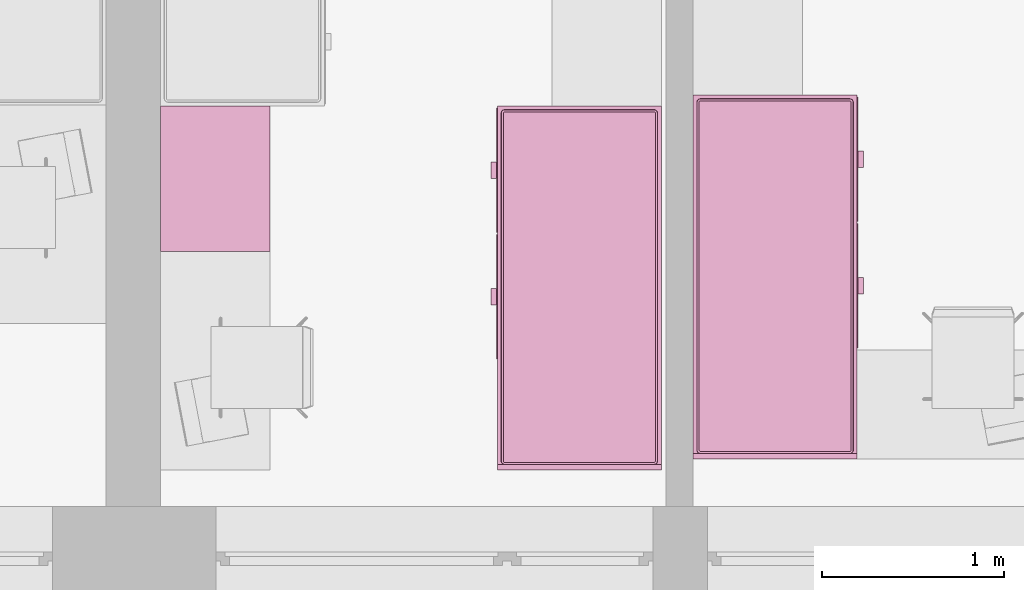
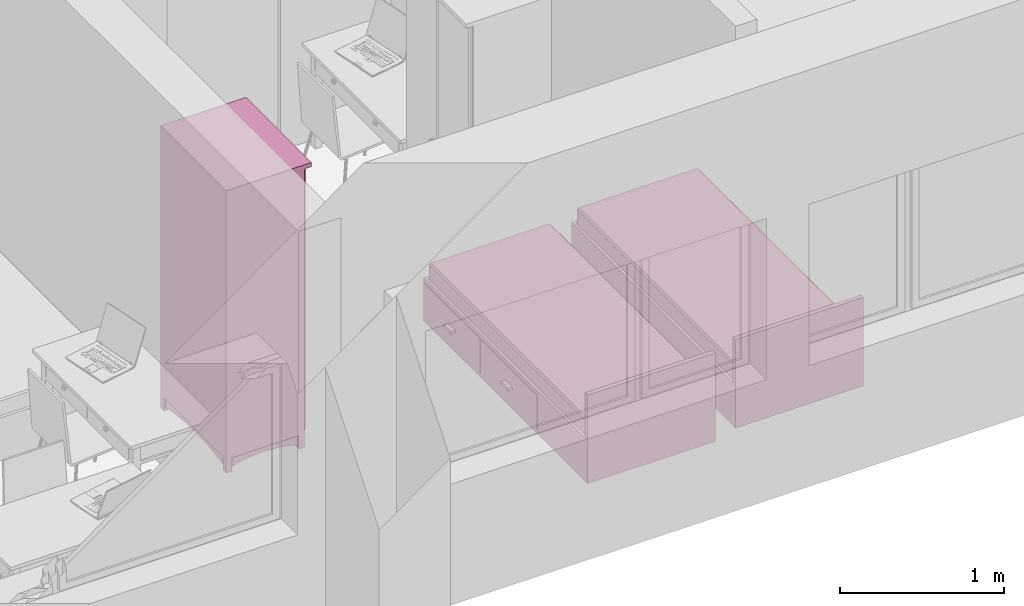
# One storey, part 103 of 172: 3 furnishings.
"""IFC2X3 building model written with IfcOpenShell, lengths in millimetres."""

from ifc_helpers import new_model, entity, si_unit, converted_unit, money_unit, direction, frame, origin_with_axes, place, context, subcontext, project, spatial, faceted_brep, source, transform, mapped, material, material_list, type_object, element, save


model = new_model("IFC2X3")

# Units and contexts
model_context = context("Model", 3, precision=1e-05, world=origin_with_axes(), true_north=direction((0.0, 1.0)))
body_context = subcontext(model_context, "Body", "Model", "MODEL_VIEW")
ifc_project = project(units=[si_unit("LENGTHUNIT", "METRE", prefix="MILLI"), si_unit("AREAUNIT", "SQUARE_METRE"), si_unit("VOLUMEUNIT", "CUBIC_METRE"), converted_unit("PLANEANGLEUNIT", "DEGREE", entity("IfcPlaneAngleMeasure", 0.0174532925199), si_unit("PLANEANGLEUNIT", "RADIAN"), dimensions=[0, 0, 0, 0, 0, 0, 0]), si_unit("SOLIDANGLEUNIT", "STERADIAN"), money_unit("USD"), converted_unit("TIMEUNIT", "Year", entity("IfcTimeMeasure", 31556926.0), si_unit("TIMEUNIT", "SECOND"), dimensions=[0, 0, 0, 0, 0, 0, 0]), si_unit("MASSUNIT", "GRAM"), si_unit("THERMODYNAMICTEMPERATUREUNIT", "DEGREE_CELSIUS"), si_unit("LUMINOUSINTENSITYUNIT", "LUMEN")], contexts=[model_context])

# Site, building, storey
site_placement = place(None, origin_with_axes())
site = spatial("IfcSite", under=ifc_project, at=site_placement, Name="Site", CompositionType="ELEMENT")
building_placement = place(site_placement, origin_with_axes())
building = spatial("IfcBuilding", under=site, at=building_placement, Name="Building", CompositionType="ELEMENT")
storey_placement = place(building_placement, frame((0.0, 0.0, 3200.0), z_axis=(0.0, 0.0, 1.0), x_axis=(1.0, 0.0, 0.0)))
storey = spatial("IfcBuildingStorey", under=building, at=storey_placement, Name="3KORRUS", CompositionType="ELEMENT", Elevation=3200.0)

# Furnishings
ifc_material = material(Name="Background")
ifc_material_list = material_list([ifc_material])
furnishing_element_type_1 = type_object("IfcFurnishingElementType", Name="Bed 19")
shared_shape_1 = source(origin_with_axes(), body_context, "Body", "Brep", [
    faceted_brep([(900.0, 1970.0, 0.0), (0.0, 1970.0, 0.0), (0.0, 2000.0, 0.0), (900.0, 2000.0, 0.0), (900.0, 1970.0, 660.0), (0.0, 1970.0, 660.0), (0.0, 2000.0, 660.0), (900.0, 2000.0, 660.0)], [[[0, 1, 2, 3]], [[1, 0, 4, 5]], [[2, 1, 5, 6]], [[3, 2, 6, 7]], [[0, 3, 7, 4]], [[5, 4, 7, 6]]]),
    faceted_brep([(900.0, 0.0, 0.0), (0.0, 0.0, 0.0), (0.0, 1970.0, 0.0), (900.0, 1970.0, 0.0), (900.0, 0.0, 320.0), (0.0, 0.0, 320.0), (0.0, 1970.0, 320.0), (900.0, 1970.0, 320.0)], [[[0, 1, 2, 3]], [[1, 0, 4, 5]], [[2, 1, 5, 6]], [[3, 2, 6, 7]], [[0, 3, 7, 4]], [[5, 4, 7, 6]]]),
    faceted_brep([(905.0, 10.0, 30.0), (900.0, 10.0, 30.0), (900.0, 695.0, 30.0), (905.0, 695.0, 30.0), (905.0, 10.0, 290.0), (900.0, 10.0, 290.0), (900.0, 695.0, 290.0), (905.0, 695.0, 290.0)], [[[0, 1, 2, 3]], [[1, 0, 4, 5]], [[2, 1, 5, 6]], [[3, 2, 6, 7]], [[0, 3, 7, 4]], [[5, 4, 7, 6]]]),
    faceted_brep([(935.0, 307.5, 150.0), (905.0, 307.5, 150.0), (905.0, 397.5, 150.0), (935.0, 397.5, 150.0), (935.0, 307.5, 170.0), (905.0, 307.5, 170.0), (905.0, 397.5, 170.0), (935.0, 397.5, 170.0)], [[[0, 1, 2, 3]], [[1, 0, 4, 5]], [[2, 1, 5, 6]], [[3, 2, 6, 7]], [[0, 3, 7, 4]], [[5, 4, 7, 6]]]),
    faceted_brep([(905.0, 705.0, 30.0), (900.0, 705.0, 30.0), (900.0, 1390.0, 30.0), (905.0, 1390.0, 30.0), (905.0, 705.0, 290.0), (900.0, 705.0, 290.0), (900.0, 1390.0, 290.0), (905.0, 1390.0, 290.0)], [[[0, 1, 2, 3]], [[1, 0, 4, 5]], [[2, 1, 5, 6]], [[3, 2, 6, 7]], [[0, 3, 7, 4]], [[5, 4, 7, 6]]]),
    faceted_brep([(935.0, 1002.5, 150.0), (905.0, 1002.5, 150.0), (905.0, 1092.5, 150.0), (935.0, 1092.5, 150.0), (935.0, 1002.5, 170.0), (905.0, 1002.5, 170.0), (905.0, 1092.5, 170.0), (935.0, 1092.5, 170.0)], [[[0, 1, 2, 3]], [[1, 0, 4, 5]], [[2, 1, 5, 6]], [[3, 2, 6, 7]], [[0, 3, 7, 4]], [[5, 4, 7, 6]]]),
    faceted_brep([(20.0, 40.0, 350.0), (20.0, 1950.0, 350.0), (21.522, 1957.654, 350.0), (25.858, 1964.142, 350.0), (32.346, 1968.478, 350.0), (40.0, 1970.0, 350.0), (860.0, 1970.0, 350.0), (867.654, 1968.478, 350.0), (874.142, 1964.142, 350.0), (878.478, 1957.654, 350.0), (880.0, 1950.0, 350.0), (880.0, 40.0, 350.0), (878.478, 32.346, 350.0), (874.142, 25.858, 350.0), (867.654, 21.522, 350.0), (860.0, 20.0, 350.0), (40.0, 20.0, 350.0), (32.346, 21.522, 350.0), (25.858, 25.858, 350.0), (21.522, 32.346, 350.0), (20.0, 40.0, 420.0), (20.0, 1950.0, 420.0), (21.522, 1957.654, 420.0), (25.858, 1964.142, 420.0), (32.346, 1968.478, 420.0), (40.0, 1970.0, 420.0), (860.0, 1970.0, 420.0), (867.654, 1968.478, 420.0), (874.142, 1964.142, 420.0), (878.478, 1957.654, 420.0), (880.0, 1950.0, 420.0), (880.0, 40.0, 420.0), (878.478, 32.346, 420.0), (874.142, 25.858, 420.0), (867.654, 21.522, 420.0), (860.0, 20.0, 420.0), (40.0, 20.0, 420.0), (32.346, 21.522, 420.0), (25.858, 25.858, 420.0), (21.522, 32.346, 420.0), (21.522, 40.15, 427.654), (21.522, 1949.85, 427.654), (22.956, 1957.06, 427.654), (26.955, 1963.045, 427.654), (32.94, 1967.044, 427.654), (40.15, 1968.478, 427.654), (859.85, 1968.478, 427.654), (867.06, 1967.044, 427.654), (873.045, 1963.045, 427.654), (877.044, 1957.06, 427.654), (878.478, 1949.85, 427.654), (878.478, 40.15, 427.654), (877.044, 32.94, 427.654), (873.045, 26.955, 427.654), (867.06, 22.956, 427.654), (859.85, 21.522, 427.654), (40.15, 21.522, 427.654), (32.94, 22.956, 427.654), (26.955, 26.955, 427.654), (22.956, 32.94, 427.654), (32.346, 41.216, 438.478), (32.346, 1948.784, 438.478), (33.152, 1952.836, 438.478), (34.759, 1955.241, 438.478), (37.164, 1956.848, 438.478), (41.216, 1957.654, 438.478), (858.784, 1957.654, 438.478), (862.836, 1956.848, 438.478), (865.241, 1955.241, 438.478), (866.848, 1952.836, 438.478), (867.654, 1948.784, 438.478), (867.654, 41.216, 438.478), (866.848, 37.164, 438.478), (865.241, 34.759, 438.478), (862.836, 33.152, 438.478), (858.784, 32.346, 438.478), (41.216, 32.346, 438.478), (37.164, 33.152, 438.478), (34.759, 34.759, 438.478), (33.152, 37.164, 438.478), (40.0, 41.97, 440.0), (40.0, 1948.03, 440.0), (40.327, 1949.673, 440.0), (40.0, 1950.0, 439.924), (41.97, 1950.0, 440.0), (858.03, 1950.0, 440.0), (859.673, 1949.673, 440.0), (860.0, 1950.0, 439.924), (860.0, 1948.03, 440.0), (860.0, 41.97, 440.0), (859.673, 40.327, 440.0), (860.0, 40.0, 439.924), (858.03, 40.0, 440.0), (41.97, 40.0, 440.0), (40.327, 40.327, 440.0), (40.0, 40.0, 439.924)], [[[0, 1, 2, 3, 4, 5, 6, 7, 8, 9, 10, 11, 12, 13, 14, 15, 16, 17, 18, 19]], [[1, 0, 20, 21]], [[2, 1, 21, 22]], [[3, 2, 22, 23]], [[4, 3, 23, 24]], [[5, 4, 24, 25]], [[6, 5, 25, 26]], [[7, 6, 26, 27]], [[8, 7, 27, 28]], [[9, 8, 28, 29]], [[10, 9, 29, 30]], [[11, 10, 30, 31]], [[12, 11, 31, 32]], [[13, 12, 32, 33]], [[14, 13, 33, 34]], [[15, 14, 34, 35]], [[16, 15, 35, 36]], [[17, 16, 36, 37]], [[18, 17, 37, 38]], [[19, 18, 38, 39]], [[0, 19, 39, 20]], [[21, 20, 40, 41]], [[22, 21, 41, 42]], [[23, 22, 42, 43]], [[24, 23, 43, 44]], [[25, 24, 44, 45]], [[26, 25, 45, 46]], [[27, 26, 46, 47]], [[28, 27, 47, 48]], [[29, 28, 48, 49]], [[30, 29, 49, 50]], [[31, 30, 50, 51]], [[32, 31, 51, 52]], [[33, 32, 52, 53]], [[34, 33, 53, 54]], [[35, 34, 54, 55]], [[36, 35, 55, 56]], [[37, 36, 56, 57]], [[38, 37, 57, 58]], [[39, 38, 58, 59]], [[20, 39, 59, 40]], [[41, 40, 60, 61]], [[42, 41, 61, 62]], [[43, 42, 62, 63]], [[44, 43, 63, 64]], [[45, 44, 64, 65]], [[46, 45, 65, 66]], [[47, 46, 66, 67]], [[48, 47, 67, 68]], [[49, 48, 68, 69]], [[50, 49, 69, 70]], [[51, 50, 70, 71]], [[52, 51, 71, 72]], [[53, 52, 72, 73]], [[54, 53, 73, 74]], [[55, 54, 74, 75]], [[56, 55, 75, 76]], [[57, 56, 76, 77]], [[58, 57, 77, 78]], [[59, 58, 78, 79]], [[40, 59, 79, 60]], [[61, 60, 80, 81]], [[62, 61, 81, 82, 83]], [[63, 62, 83]], [[64, 63, 83]], [[65, 64, 83, 82, 84]], [[66, 65, 84, 85]], [[67, 66, 85, 86, 87]], [[68, 67, 87]], [[69, 68, 87]], [[70, 69, 87, 86, 88]], [[71, 70, 88, 89]], [[72, 71, 89, 90, 91]], [[73, 72, 91]], [[74, 73, 91]], [[75, 74, 91, 90, 92]], [[76, 75, 92, 93]], [[77, 76, 93, 94, 95]], [[78, 77, 95]], [[79, 78, 95]], [[60, 79, 95, 94, 80]], [[81, 80, 94, 93, 92, 90, 89, 88, 86, 85, 84, 82]]]),
    faceted_brep([(20.0, 40.0, 350.0), (21.522, 32.346, 350.0), (25.858, 25.858, 350.0), (32.346, 21.522, 350.0), (40.0, 20.0, 350.0), (860.0, 20.0, 350.0), (867.654, 21.522, 350.0), (874.142, 25.858, 350.0), (878.478, 32.346, 350.0), (880.0, 40.0, 350.0), (880.0, 1950.0, 350.0), (878.478, 1957.654, 350.0), (874.142, 1964.142, 350.0), (867.654, 1968.478, 350.0), (860.0, 1970.0, 350.0), (40.0, 1970.0, 350.0), (32.346, 1968.478, 350.0), (25.858, 1964.142, 350.0), (21.522, 1957.654, 350.0), (20.0, 1950.0, 350.0), (20.0, 40.0, 320.0), (21.522, 32.346, 320.0), (25.858, 25.858, 320.0), (32.346, 21.522, 320.0), (40.0, 20.0, 320.0), (860.0, 20.0, 320.0), (867.654, 21.522, 320.0), (874.142, 25.858, 320.0), (878.478, 32.346, 320.0), (880.0, 40.0, 320.0), (880.0, 1950.0, 320.0), (878.478, 1957.654, 320.0), (874.142, 1964.142, 320.0), (867.654, 1968.478, 320.0), (860.0, 1970.0, 320.0), (40.0, 1970.0, 320.0), (32.346, 1968.478, 320.0), (25.858, 1964.142, 320.0), (21.522, 1957.654, 320.0), (20.0, 1950.0, 320.0)], [[[0, 1, 2, 3, 4, 5, 6, 7, 8, 9, 10, 11, 12, 13, 14, 15, 16, 17, 18, 19]], [[0, 20, 21, 1]], [[1, 21, 22, 2]], [[2, 22, 23, 3]], [[3, 23, 24, 4]], [[4, 24, 25, 5]], [[5, 25, 26, 6]], [[6, 26, 27, 7]], [[7, 27, 28, 8]], [[8, 28, 29, 9]], [[9, 29, 30, 10]], [[10, 30, 31, 11]], [[11, 31, 32, 12]], [[12, 32, 33, 13]], [[13, 33, 34, 14]], [[14, 34, 35, 15]], [[15, 35, 36, 16]], [[16, 36, 37, 17]], [[17, 37, 38, 18]], [[18, 38, 39, 19]], [[19, 39, 20, 0]], [[20, 39, 38, 37, 36, 35, 34, 33, 32, 31, 30, 29, 28, 27, 26, 25, 24, 23, 22, 21]]]),
])
furnishing_1_placement = place(storey_placement, frame((-27240.2967033, -17439.2398994, 0.0), z_axis=(0.0, 0.0, 1.0), x_axis=(-1.0, 0.0, 0.0)))
element("IfcFurnishingElement", 1, at=furnishing_1_placement, inside=storey, type_object=furnishing_element_type_1, material=ifc_material_list, Name="FU - 013", context=body_context, shape_type="MappedRepresentation", body=[
    mapped(shared_shape_1, transform((0.0, 0.0, 0.0))),
])
furnishing_element_type_2 = type_object("IfcFurnishingElementType", Name="Cupboard 19")
shared_shape_2 = source(origin_with_axes(), body_context, "Body", "Brep", [
    faceted_brep([(780.0, 600.0, 120.0), (780.0, 600.0, 2050.0), (780.0, 580.0, 2050.0), (780.0, 580.0, 120.0), (20.0, 600.0, 120.0), (20.0, 600.0, 2050.0), (20.0, 580.0, 2050.0), (20.0, 580.0, 120.0)], [[[0, 1, 2, 3]], [[4, 5, 1, 0]], [[1, 5, 6, 2]], [[3, 2, 6, 7]], [[0, 3, 7, 4]], [[7, 6, 5, 4]]]),
    faceted_brep([(0.0, 50.0, 100.0), (0.0, 600.0, 100.0), (20.0, 600.0, 100.0), (20.0, 50.0, 100.0), (0.0, 50.0, 2070.0), (0.0, 600.0, 2070.0), (20.0, 600.0, 2070.0), (20.0, 50.0, 2070.0)], [[[0, 1, 2, 3]], [[0, 4, 5, 1]], [[1, 5, 6, 2]], [[2, 6, 7, 3]], [[3, 7, 4, 0]], [[7, 6, 5, 4]]]),
    faceted_brep([(780.0, 50.0, 100.0), (780.0, 600.0, 100.0), (800.0, 600.0, 100.0), (800.0, 50.0, 100.0), (780.0, 50.0, 2070.0), (780.0, 600.0, 2070.0), (800.0, 600.0, 2070.0), (800.0, 50.0, 2070.0)], [[[0, 1, 2, 3]], [[0, 4, 5, 1]], [[1, 5, 6, 2]], [[2, 6, 7, 3]], [[3, 7, 4, 0]], [[7, 6, 5, 4]]]),
    faceted_brep([(20.0, 50.0, 100.0), (20.0, 600.0, 100.0), (780.0, 600.0, 100.0), (780.0, 50.0, 100.0), (20.0, 50.0, 120.0), (20.0, 600.0, 120.0), (780.0, 600.0, 120.0), (780.0, 50.0, 120.0)], [[[0, 1, 2, 3]], [[0, 4, 5, 1]], [[1, 5, 6, 2]], [[2, 6, 7, 3]], [[3, 7, 4, 0]], [[7, 6, 5, 4]]]),
    faceted_brep([(20.0, 50.0, 2050.0), (20.0, 600.0, 2050.0), (780.0, 600.0, 2050.0), (780.0, 50.0, 2050.0), (20.0, 50.0, 2070.0), (20.0, 600.0, 2070.0), (780.0, 600.0, 2070.0), (780.0, 50.0, 2070.0)], [[[0, 1, 2, 3]], [[0, 4, 5, 1]], [[1, 5, 6, 2]], [[2, 6, 7, 3]], [[3, 7, 4, 0]], [[7, 6, 5, 4]]]),
    faceted_brep([(0.0, 600.0, 2070.0), (0.0, 0.0, 2070.0), (0.0, 0.0, 2100.0), (0.0, 600.0, 2100.0), (800.0, 600.0, 2070.0), (800.0, 0.0, 2070.0), (800.0, 0.0, 2100.0), (800.0, 600.0, 2100.0)], [[[0, 1, 2, 3]], [[0, 4, 5, 1]], [[1, 5, 6, 2]], [[3, 2, 6, 7]], [[4, 0, 3, 7]], [[5, 4, 7, 6]]]),
    faceted_brep([(760.0, 590.0, 25.0), (760.0, 570.0, 25.0), (640.962, 570.0, 45.8), (640.962, 590.0, 45.8), (760.0, 590.0, 100.0), (760.0, 570.0, 100.0), (40.0, 570.0, 100.0), (40.0, 570.0, 25.0), (159.038, 570.0, 45.8), (279.23, 570.0, 58.32), (400.0, 570.0, 62.5), (520.77, 570.0, 58.32), (520.77, 590.0, 58.32), (400.0, 590.0, 62.5), (279.23, 590.0, 58.32), (159.038, 590.0, 45.8), (40.0, 590.0, 25.0), (40.0, 590.0, 100.0)], [[[0, 1, 2, 3]], [[4, 5, 1, 0]], [[1, 5, 6, 7, 8, 9, 10, 11, 2]], [[3, 2, 11, 12]], [[0, 3, 12, 13, 14, 15, 16, 17, 4]], [[17, 6, 5, 4]], [[16, 7, 6, 17]], [[15, 8, 7, 16]], [[14, 9, 8, 15]], [[13, 10, 9, 14]], [[12, 11, 10, 13]]]),
    faceted_brep([(760.0, 80.0, 25.0), (760.0, 60.0, 25.0), (640.962, 60.0, 45.8), (640.962, 80.0, 45.8), (760.0, 80.0, 100.0), (760.0, 60.0, 100.0), (40.0, 60.0, 100.0), (40.0, 60.0, 25.0), (159.038, 60.0, 45.8), (279.23, 60.0, 58.32), (400.0, 60.0, 62.5), (520.77, 60.0, 58.32), (520.77, 80.0, 58.32), (400.0, 80.0, 62.5), (279.23, 80.0, 58.32), (159.038, 80.0, 45.8), (40.0, 80.0, 25.0), (40.0, 80.0, 100.0)], [[[0, 1, 2, 3]], [[4, 5, 1, 0]], [[1, 5, 6, 7, 8, 9, 10, 11, 2]], [[3, 2, 11, 12]], [[0, 3, 12, 13, 14, 15, 16, 17, 4]], [[17, 6, 5, 4]], [[16, 7, 6, 17]], [[15, 8, 7, 16]], [[14, 9, 8, 15]], [[13, 10, 9, 14]], [[12, 11, 10, 13]]]),
    faceted_brep([(790.0, 90.0, 25.0), (770.0, 90.0, 25.0), (770.0, 141.266, 38.072), (790.0, 141.266, 38.072), (790.0, 90.0, 100.0), (770.0, 90.0, 100.0), (770.0, 560.0, 100.0), (770.0, 560.0, 25.0), (770.0, 508.734, 38.072), (770.0, 456.752, 47.92), (770.0, 404.257, 54.508), (770.0, 351.453, 57.808), (770.0, 298.547, 57.808), (770.0, 245.743, 54.508), (770.0, 193.248, 47.92), (790.0, 193.248, 47.92), (790.0, 245.743, 54.508), (790.0, 298.547, 57.808), (790.0, 351.453, 57.808), (790.0, 404.257, 54.508), (790.0, 456.752, 47.92), (790.0, 508.734, 38.072), (790.0, 560.0, 25.0), (790.0, 560.0, 100.0)], [[[0, 1, 2, 3]], [[4, 5, 1, 0]], [[1, 5, 6, 7, 8, 9, 10, 11, 12, 13, 14, 2]], [[3, 2, 14, 15]], [[0, 3, 15, 16, 17, 18, 19, 20, 21, 22, 23, 4]], [[23, 6, 5, 4]], [[22, 7, 6, 23]], [[21, 8, 7, 22]], [[20, 9, 8, 21]], [[19, 10, 9, 20]], [[18, 11, 10, 19]], [[17, 12, 11, 18]], [[16, 13, 12, 17]], [[15, 14, 13, 16]]]),
    faceted_brep([(30.0, 90.0, 25.0), (10.0, 90.0, 25.0), (10.0, 141.266, 38.072), (30.0, 141.266, 38.072), (30.0, 90.0, 100.0), (10.0, 90.0, 100.0), (10.0, 560.0, 100.0), (10.0, 560.0, 25.0), (10.0, 508.734, 38.072), (10.0, 456.752, 47.92), (10.0, 404.257, 54.508), (10.0, 351.453, 57.808), (10.0, 298.547, 57.808), (10.0, 245.743, 54.508), (10.0, 193.248, 47.92), (30.0, 193.248, 47.92), (30.0, 245.743, 54.508), (30.0, 298.547, 57.808), (30.0, 351.453, 57.808), (30.0, 404.257, 54.508), (30.0, 456.752, 47.92), (30.0, 508.734, 38.072), (30.0, 560.0, 25.0), (30.0, 560.0, 100.0)], [[[0, 1, 2, 3]], [[4, 5, 1, 0]], [[1, 5, 6, 7, 8, 9, 10, 11, 12, 13, 14, 2]], [[3, 2, 14, 15]], [[0, 3, 15, 16, 17, 18, 19, 20, 21, 22, 23, 4]], [[23, 6, 5, 4]], [[22, 7, 6, 23]], [[21, 8, 7, 22]], [[20, 9, 8, 21]], [[19, 10, 9, 20]], [[18, 11, 10, 19]], [[17, 12, 11, 18]], [[16, 13, 12, 17]], [[15, 14, 13, 16]]]),
    faceted_brep([(760.0, 560.0, 0.0), (760.0, 560.0, 100.0), (760.0, 600.0, 100.0), (760.0, 600.0, 0.0), (800.0, 560.0, 0.0), (800.0, 560.0, 100.0), (800.0, 600.0, 100.0), (800.0, 600.0, 0.0)], [[[0, 1, 2, 3]], [[4, 5, 1, 0]], [[1, 5, 6, 2]], [[3, 2, 6, 7]], [[0, 3, 7, 4]], [[7, 6, 5, 4]]]),
    faceted_brep([(0.0, 560.0, 0.0), (0.0, 560.0, 100.0), (0.0, 600.0, 100.0), (0.0, 600.0, 0.0), (40.0, 560.0, 0.0), (40.0, 560.0, 100.0), (40.0, 600.0, 100.0), (40.0, 600.0, 0.0)], [[[0, 1, 2, 3]], [[4, 5, 1, 0]], [[1, 5, 6, 2]], [[3, 2, 6, 7]], [[0, 3, 7, 4]], [[7, 6, 5, 4]]]),
    faceted_brep([(760.0, 50.0, 0.0), (760.0, 50.0, 100.0), (760.0, 90.0, 100.0), (760.0, 90.0, 0.0), (800.0, 50.0, 0.0), (800.0, 50.0, 100.0), (800.0, 90.0, 100.0), (800.0, 90.0, 0.0)], [[[0, 1, 2, 3]], [[4, 5, 1, 0]], [[1, 5, 6, 2]], [[3, 2, 6, 7]], [[0, 3, 7, 4]], [[7, 6, 5, 4]]]),
    faceted_brep([(0.0, 50.0, 0.0), (0.0, 50.0, 100.0), (0.0, 90.0, 100.0), (0.0, 90.0, 0.0), (40.0, 50.0, 0.0), (40.0, 50.0, 100.0), (40.0, 90.0, 100.0), (40.0, 90.0, 0.0)], [[[0, 1, 2, 3]], [[4, 5, 1, 0]], [[1, 5, 6, 2]], [[3, 2, 6, 7]], [[0, 3, 7, 4]], [[7, 6, 5, 4]]]),
    faceted_brep([(780.0, 580.0, 587.5), (780.0, 580.0, 607.5), (780.0, 50.0, 607.5), (780.0, 50.0, 587.5), (20.0, 580.0, 587.5), (20.0, 580.0, 607.5), (20.0, 50.0, 607.5), (20.0, 50.0, 587.5)], [[[0, 1, 2, 3]], [[4, 5, 1, 0]], [[1, 5, 6, 2]], [[3, 2, 6, 7]], [[0, 3, 7, 4]], [[7, 6, 5, 4]]]),
    faceted_brep([(780.0, 580.0, 1075.0), (780.0, 580.0, 1095.0), (780.0, 50.0, 1095.0), (780.0, 50.0, 1075.0), (20.0, 580.0, 1075.0), (20.0, 580.0, 1095.0), (20.0, 50.0, 1095.0), (20.0, 50.0, 1075.0)], [[[0, 1, 2, 3]], [[4, 5, 1, 0]], [[1, 5, 6, 2]], [[3, 2, 6, 7]], [[0, 3, 7, 4]], [[7, 6, 5, 4]]]),
    faceted_brep([(780.0, 580.0, 1562.5), (780.0, 580.0, 1582.5), (780.0, 50.0, 1582.5), (780.0, 50.0, 1562.5), (20.0, 580.0, 1562.5), (20.0, 580.0, 1582.5), (20.0, 50.0, 1582.5), (20.0, 50.0, 1562.5)], [[[0, 1, 2, 3]], [[4, 5, 1, 0]], [[1, 5, 6, 2]], [[3, 2, 6, 7]], [[0, 3, 7, 4]], [[7, 6, 5, 4]]]),
    faceted_brep([(789.5, 50.0, 110.5), (400.5, 50.0, 110.5), (400.5, 50.0, 2059.5), (789.5, 50.0, 2059.5), (789.5, 40.0, 110.5), (400.5, 40.0, 110.5), (400.5, 40.0, 2059.5), (789.5, 40.0, 2059.5), (779.5, 30.0, 120.5), (410.5, 30.0, 120.5), (410.5, 30.0, 2049.5), (779.5, 30.0, 2049.5)], [[[0, 1, 2, 3]], [[0, 4, 5, 1]], [[1, 5, 6, 2]], [[2, 6, 7, 3]], [[3, 7, 4, 0]], [[4, 8, 9, 5]], [[5, 9, 10, 6]], [[6, 10, 11, 7]], [[7, 11, 8, 4]], [[10, 9, 8, 11]]]),
    faceted_brep([(399.5, 50.0, 110.5), (10.5, 50.0, 110.5), (10.5, 50.0, 2059.5), (399.5, 50.0, 2059.5), (399.5, 40.0, 110.5), (10.5, 40.0, 110.5), (10.5, 40.0, 2059.5), (399.5, 40.0, 2059.5), (389.5, 30.0, 120.5), (20.5, 30.0, 120.5), (20.5, 30.0, 2049.5), (389.5, 30.0, 2049.5)], [[[0, 1, 2, 3]], [[0, 4, 5, 1]], [[1, 5, 6, 2]], [[2, 6, 7, 3]], [[3, 7, 4, 0]], [[4, 8, 9, 5]], [[5, 9, 10, 6]], [[6, 10, 11, 7]], [[7, 11, 8, 4]], [[10, 9, 8, 11]]]),
    faceted_brep([(339.608, 30.0, 954.0), (338.0, 30.0, 960.0), (339.608, 30.0, 966.0), (344.0, 30.0, 970.392), (350.0, 30.0, 972.0), (356.0, 30.0, 970.392), (360.392, 30.0, 966.0), (362.0, 30.0, 960.0), (360.392, 30.0, 954.0), (356.0, 30.0, 949.608), (350.0, 30.0, 948.0), (344.0, 30.0, 949.608), (339.608, 5.0, 954.0), (338.0, 5.0, 960.0), (339.608, 5.0, 966.0), (344.0, 5.0, 970.392), (350.0, 5.0, 972.0), (356.0, 5.0, 970.392), (360.392, 5.0, 966.0), (362.0, 5.0, 960.0), (360.392, 5.0, 954.0), (356.0, 5.0, 949.608), (350.0, 5.0, 948.0), (344.0, 5.0, 949.608)], [[[0, 1, 2, 3, 4, 5, 6, 7, 8, 9, 10, 11]], [[0, 12, 13, 1]], [[1, 13, 14, 2]], [[2, 14, 15, 3]], [[3, 15, 16, 4]], [[4, 16, 17, 5]], [[5, 17, 18, 6]], [[6, 18, 19, 7]], [[7, 19, 20, 8]], [[8, 20, 21, 9]], [[9, 21, 22, 10]], [[10, 22, 23, 11]], [[11, 23, 12, 0]], [[12, 23, 22, 21, 20, 19, 18, 17, 16, 15, 14, 13]]]),
    faceted_brep([(460.392, 30.0, 954.0), (456.0, 30.0, 949.608), (450.0, 30.0, 948.0), (444.0, 30.0, 949.608), (439.608, 30.0, 954.0), (438.0, 30.0, 960.0), (439.608, 30.0, 966.0), (444.0, 30.0, 970.392), (450.0, 30.0, 972.0), (456.0, 30.0, 970.392), (460.392, 30.0, 966.0), (462.0, 30.0, 960.0), (460.392, 5.0, 954.0), (456.0, 5.0, 949.608), (450.0, 5.0, 948.0), (444.0, 5.0, 949.608), (439.608, 5.0, 954.0), (438.0, 5.0, 960.0), (439.608, 5.0, 966.0), (444.0, 5.0, 970.392), (450.0, 5.0, 972.0), (456.0, 5.0, 970.392), (460.392, 5.0, 966.0), (462.0, 5.0, 960.0)], [[[0, 1, 2, 3, 4, 5, 6, 7, 8, 9, 10, 11]], [[1, 0, 12, 13]], [[2, 1, 13, 14]], [[3, 2, 14, 15]], [[4, 3, 15, 16]], [[5, 4, 16, 17]], [[6, 5, 17, 18]], [[7, 6, 18, 19]], [[8, 7, 19, 20]], [[9, 8, 20, 21]], [[10, 9, 21, 22]], [[11, 10, 22, 23]], [[0, 11, 23, 12]], [[12, 23, 22, 21, 20, 19, 18, 17, 16, 15, 14, 13]]]),
])
furnishing_2_placement = place(storey_placement, frame((-29390.2967033, -18239.2398994, 0.0), z_axis=(0.0, 0.0, 1.0), x_axis=(0.0, 1.0, 0.0)))
element("IfcFurnishingElement", 2, at=furnishing_2_placement, inside=storey, type_object=furnishing_element_type_2, material=ifc_material_list, Name="FU - 014", context=body_context, shape_type="MappedRepresentation", body=[
    mapped(shared_shape_2, transform((0.0, 0.0, 0.0))),
])
shared_shape_3 = source(origin_with_axes(), body_context, "Body", "Brep", [
    faceted_brep([(-900.0, 1970.0, 0.0), (-900.0, 2000.0, 0.0), (0.0, 2000.0, 0.0), (0.0, 1970.0, 0.0), (-900.0, 1970.0, 660.0), (-900.0, 2000.0, 660.0), (0.0, 2000.0, 660.0), (0.0, 1970.0, 660.0)], [[[0, 1, 2, 3]], [[0, 4, 5, 1]], [[1, 5, 6, 2]], [[2, 6, 7, 3]], [[3, 7, 4, 0]], [[7, 6, 5, 4]]]),
    faceted_brep([(-900.0, 0.0, 0.0), (-900.0, 1970.0, 0.0), (0.0, 1970.0, 0.0), (0.0, 0.0, 0.0), (-900.0, 0.0, 320.0), (-900.0, 1970.0, 320.0), (0.0, 1970.0, 320.0), (0.0, 0.0, 320.0)], [[[0, 1, 2, 3]], [[0, 4, 5, 1]], [[1, 5, 6, 2]], [[2, 6, 7, 3]], [[3, 7, 4, 0]], [[7, 6, 5, 4]]]),
    faceted_brep([(-905.0, 10.0, 30.0), (-905.0, 695.0, 30.0), (-900.0, 695.0, 30.0), (-900.0, 10.0, 30.0), (-905.0, 10.0, 290.0), (-905.0, 695.0, 290.0), (-900.0, 695.0, 290.0), (-900.0, 10.0, 290.0)], [[[0, 1, 2, 3]], [[0, 4, 5, 1]], [[1, 5, 6, 2]], [[2, 6, 7, 3]], [[3, 7, 4, 0]], [[7, 6, 5, 4]]]),
    faceted_brep([(-935.0, 307.5, 150.0), (-935.0, 397.5, 150.0), (-905.0, 397.5, 150.0), (-905.0, 307.5, 150.0), (-935.0, 307.5, 170.0), (-935.0, 397.5, 170.0), (-905.0, 397.5, 170.0), (-905.0, 307.5, 170.0)], [[[0, 1, 2, 3]], [[0, 4, 5, 1]], [[1, 5, 6, 2]], [[2, 6, 7, 3]], [[3, 7, 4, 0]], [[7, 6, 5, 4]]]),
    faceted_brep([(-905.0, 705.0, 30.0), (-905.0, 1390.0, 30.0), (-900.0, 1390.0, 30.0), (-900.0, 705.0, 30.0), (-905.0, 705.0, 290.0), (-905.0, 1390.0, 290.0), (-900.0, 1390.0, 290.0), (-900.0, 705.0, 290.0)], [[[0, 1, 2, 3]], [[0, 4, 5, 1]], [[1, 5, 6, 2]], [[2, 6, 7, 3]], [[3, 7, 4, 0]], [[7, 6, 5, 4]]]),
    faceted_brep([(-935.0, 1002.5, 150.0), (-935.0, 1092.5, 150.0), (-905.0, 1092.5, 150.0), (-905.0, 1002.5, 150.0), (-935.0, 1002.5, 170.0), (-935.0, 1092.5, 170.0), (-905.0, 1092.5, 170.0), (-905.0, 1002.5, 170.0)], [[[0, 1, 2, 3]], [[0, 4, 5, 1]], [[1, 5, 6, 2]], [[2, 6, 7, 3]], [[3, 7, 4, 0]], [[7, 6, 5, 4]]]),
    faceted_brep([(-20.0, 40.0, 350.0), (-21.522, 32.346, 350.0), (-25.858, 25.858, 350.0), (-32.346, 21.522, 350.0), (-40.0, 20.0, 350.0), (-860.0, 20.0, 350.0), (-867.654, 21.522, 350.0), (-874.142, 25.858, 350.0), (-878.478, 32.346, 350.0), (-880.0, 40.0, 350.0), (-880.0, 1950.0, 350.0), (-878.478, 1957.654, 350.0), (-874.142, 1964.142, 350.0), (-867.654, 1968.478, 350.0), (-860.0, 1970.0, 350.0), (-40.0, 1970.0, 350.0), (-32.346, 1968.478, 350.0), (-25.858, 1964.142, 350.0), (-21.522, 1957.654, 350.0), (-20.0, 1950.0, 350.0), (-20.0, 40.0, 420.0), (-21.522, 32.346, 420.0), (-25.858, 25.858, 420.0), (-32.346, 21.522, 420.0), (-40.0, 20.0, 420.0), (-860.0, 20.0, 420.0), (-867.654, 21.522, 420.0), (-874.142, 25.858, 420.0), (-878.478, 32.346, 420.0), (-880.0, 40.0, 420.0), (-880.0, 1950.0, 420.0), (-878.478, 1957.654, 420.0), (-874.142, 1964.142, 420.0), (-867.654, 1968.478, 420.0), (-860.0, 1970.0, 420.0), (-40.0, 1970.0, 420.0), (-32.346, 1968.478, 420.0), (-25.858, 1964.142, 420.0), (-21.522, 1957.654, 420.0), (-20.0, 1950.0, 420.0), (-21.522, 40.15, 427.654), (-22.956, 32.94, 427.654), (-26.955, 26.955, 427.654), (-32.94, 22.956, 427.654), (-40.15, 21.522, 427.654), (-859.85, 21.522, 427.654), (-867.06, 22.956, 427.654), (-873.045, 26.955, 427.654), (-877.044, 32.94, 427.654), (-878.478, 40.15, 427.654), (-878.478, 1949.85, 427.654), (-877.044, 1957.06, 427.654), (-873.045, 1963.045, 427.654), (-867.06, 1967.044, 427.654), (-859.85, 1968.478, 427.654), (-40.15, 1968.478, 427.654), (-32.94, 1967.044, 427.654), (-26.955, 1963.045, 427.654), (-22.956, 1957.06, 427.654), (-21.522, 1949.85, 427.654), (-32.346, 41.216, 438.478), (-33.152, 37.164, 438.478), (-34.759, 34.759, 438.478), (-37.164, 33.152, 438.478), (-41.216, 32.346, 438.478), (-858.784, 32.346, 438.478), (-862.836, 33.152, 438.478), (-865.241, 34.759, 438.478), (-866.848, 37.164, 438.478), (-867.654, 41.216, 438.478), (-867.654, 1948.784, 438.478), (-866.848, 1952.836, 438.478), (-865.241, 1955.241, 438.478), (-862.836, 1956.848, 438.478), (-858.784, 1957.654, 438.478), (-41.216, 1957.654, 438.478), (-37.164, 1956.848, 438.478), (-34.759, 1955.241, 438.478), (-33.152, 1952.836, 438.478), (-32.346, 1948.784, 438.478), (-40.0, 41.97, 440.0), (-40.327, 40.327, 440.0), (-40.0, 40.0, 439.924), (-41.97, 40.0, 440.0), (-858.03, 40.0, 440.0), (-859.673, 40.327, 440.0), (-860.0, 40.0, 439.924), (-860.0, 41.97, 440.0), (-860.0, 1948.03, 440.0), (-859.673, 1949.673, 440.0), (-860.0, 1950.0, 439.924), (-858.03, 1950.0, 440.0), (-41.97, 1950.0, 440.0), (-40.327, 1949.673, 440.0), (-40.0, 1950.0, 439.924), (-40.0, 1948.03, 440.0)], [[[0, 1, 2, 3, 4, 5, 6, 7, 8, 9, 10, 11, 12, 13, 14, 15, 16, 17, 18, 19]], [[0, 20, 21, 1]], [[1, 21, 22, 2]], [[2, 22, 23, 3]], [[3, 23, 24, 4]], [[4, 24, 25, 5]], [[5, 25, 26, 6]], [[6, 26, 27, 7]], [[7, 27, 28, 8]], [[8, 28, 29, 9]], [[9, 29, 30, 10]], [[10, 30, 31, 11]], [[11, 31, 32, 12]], [[12, 32, 33, 13]], [[13, 33, 34, 14]], [[14, 34, 35, 15]], [[15, 35, 36, 16]], [[16, 36, 37, 17]], [[17, 37, 38, 18]], [[18, 38, 39, 19]], [[19, 39, 20, 0]], [[20, 40, 41, 21]], [[21, 41, 42, 22]], [[22, 42, 43, 23]], [[23, 43, 44, 24]], [[24, 44, 45, 25]], [[25, 45, 46, 26]], [[26, 46, 47, 27]], [[27, 47, 48, 28]], [[28, 48, 49, 29]], [[29, 49, 50, 30]], [[30, 50, 51, 31]], [[31, 51, 52, 32]], [[32, 52, 53, 33]], [[33, 53, 54, 34]], [[34, 54, 55, 35]], [[35, 55, 56, 36]], [[36, 56, 57, 37]], [[37, 57, 58, 38]], [[38, 58, 59, 39]], [[39, 59, 40, 20]], [[40, 60, 61, 41]], [[41, 61, 62, 42]], [[42, 62, 63, 43]], [[43, 63, 64, 44]], [[44, 64, 65, 45]], [[45, 65, 66, 46]], [[46, 66, 67, 47]], [[47, 67, 68, 48]], [[48, 68, 69, 49]], [[49, 69, 70, 50]], [[50, 70, 71, 51]], [[51, 71, 72, 52]], [[52, 72, 73, 53]], [[53, 73, 74, 54]], [[54, 74, 75, 55]], [[55, 75, 76, 56]], [[56, 76, 77, 57]], [[57, 77, 78, 58]], [[58, 78, 79, 59]], [[59, 79, 60, 40]], [[60, 80, 81, 82, 61]], [[61, 82, 62]], [[62, 82, 63]], [[63, 82, 81, 83, 64]], [[64, 83, 84, 65]], [[65, 84, 85, 86, 66]], [[66, 86, 67]], [[67, 86, 68]], [[68, 86, 85, 87, 69]], [[69, 87, 88, 70]], [[70, 88, 89, 90, 71]], [[71, 90, 72]], [[72, 90, 73]], [[73, 90, 89, 91, 74]], [[74, 91, 92, 75]], [[75, 92, 93, 94, 76]], [[76, 94, 77]], [[77, 94, 78]], [[78, 94, 93, 95, 79]], [[79, 95, 80, 60]], [[95, 93, 92, 91, 89, 88, 87, 85, 84, 83, 81, 80]]]),
    faceted_brep([(-20.0, 40.0, 350.0), (-20.0, 1950.0, 350.0), (-21.522, 1957.654, 350.0), (-25.858, 1964.142, 350.0), (-32.346, 1968.478, 350.0), (-40.0, 1970.0, 350.0), (-860.0, 1970.0, 350.0), (-867.654, 1968.478, 350.0), (-874.142, 1964.142, 350.0), (-878.478, 1957.654, 350.0), (-880.0, 1950.0, 350.0), (-880.0, 40.0, 350.0), (-878.478, 32.346, 350.0), (-874.142, 25.858, 350.0), (-867.654, 21.522, 350.0), (-860.0, 20.0, 350.0), (-40.0, 20.0, 350.0), (-32.346, 21.522, 350.0), (-25.858, 25.858, 350.0), (-21.522, 32.346, 350.0), (-20.0, 40.0, 320.0), (-20.0, 1950.0, 320.0), (-21.522, 1957.654, 320.0), (-25.858, 1964.142, 320.0), (-32.346, 1968.478, 320.0), (-40.0, 1970.0, 320.0), (-860.0, 1970.0, 320.0), (-867.654, 1968.478, 320.0), (-874.142, 1964.142, 320.0), (-878.478, 1957.654, 320.0), (-880.0, 1950.0, 320.0), (-880.0, 40.0, 320.0), (-878.478, 32.346, 320.0), (-874.142, 25.858, 320.0), (-867.654, 21.522, 320.0), (-860.0, 20.0, 320.0), (-40.0, 20.0, 320.0), (-32.346, 21.522, 320.0), (-25.858, 25.858, 320.0), (-21.522, 32.346, 320.0)], [[[0, 1, 2, 3, 4, 5, 6, 7, 8, 9, 10, 11, 12, 13, 14, 15, 16, 17, 18, 19]], [[1, 0, 20, 21]], [[2, 1, 21, 22]], [[3, 2, 22, 23]], [[4, 3, 23, 24]], [[5, 4, 24, 25]], [[6, 5, 25, 26]], [[7, 6, 26, 27]], [[8, 7, 27, 28]], [[9, 8, 28, 29]], [[10, 9, 29, 30]], [[11, 10, 30, 31]], [[12, 11, 31, 32]], [[13, 12, 32, 33]], [[14, 13, 33, 34]], [[15, 14, 34, 35]], [[16, 15, 35, 36]], [[17, 16, 36, 37]], [[18, 17, 37, 38]], [[19, 18, 38, 39]], [[0, 19, 39, 20]], [[20, 39, 38, 37, 36, 35, 34, 33, 32, 31, 30, 29, 28, 27, 26, 25, 24, 23, 22, 21]]]),
])
furnishing_3_placement = place(storey_placement, frame((-27065.2967033, -17379.2398994, 0.0), z_axis=(0.0, 0.0, 1.0), x_axis=(-1.0, 0.0, 0.0)))
element("IfcFurnishingElement", 3, at=furnishing_3_placement, inside=storey, type_object=furnishing_element_type_1, material=ifc_material_list, Name="FU - 013", context=body_context, shape_type="MappedRepresentation", body=[
    mapped(shared_shape_3, transform((0.0, 0.0, 0.0))),
])

save(model, "model.ifc")
